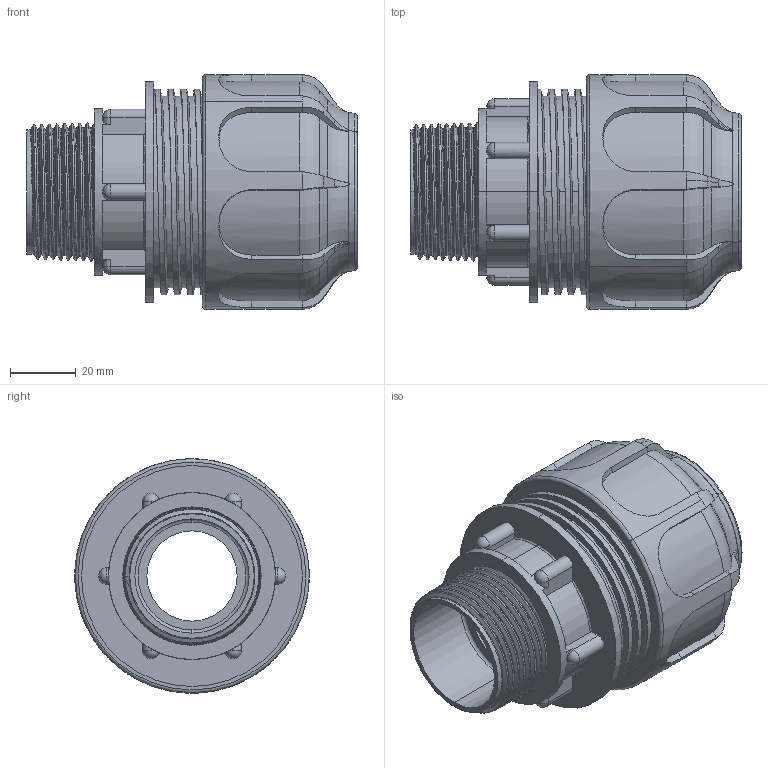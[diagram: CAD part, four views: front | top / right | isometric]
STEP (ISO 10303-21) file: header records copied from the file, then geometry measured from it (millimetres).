
FILE_DESCRIPTION (( 'STEP AP203' ), '1' );
FILE_NAME ('02004.0932.STEP', '2017-05-22T14:11:52', ( '' ), ( '' ), 'SwSTEP 2.0', 'SolidWorks 2011', '' );
FILE_SCHEMA (( 'CONFIG_CONTROL_DESIGN' ));
Products named in the file (3): 02004.0932; 01711_3232; 01770_0932
Assembly tree (2 placements, depth 2):
  02004.0932
    01711_3232
    01770_0932
Bounding box: 100.28 x 71.1 x 71.1 mm (x, y, z)
Volume: 91948.9 mm3; surface area: 77753.1 mm2
Topology: 2 solids, 2 shells, 447 faces, 1719 edges, 1274 vertices
Faces by surface type: cylinder 150, plane 131, torus 104, cone 45, bspline 11, sphere 6
Entity records: 35591 total; most frequent: CARTESIAN_POINT 22271, ORIENTED_EDGE 3416, DIRECTION 2002, EDGE_CURVE 1708, VERTEX_POINT 1272, B_SPLINE_CURVE_WITH_KNOTS 883, AXIS2_PLACEMENT_3D 811, EDGE_LOOP 458
